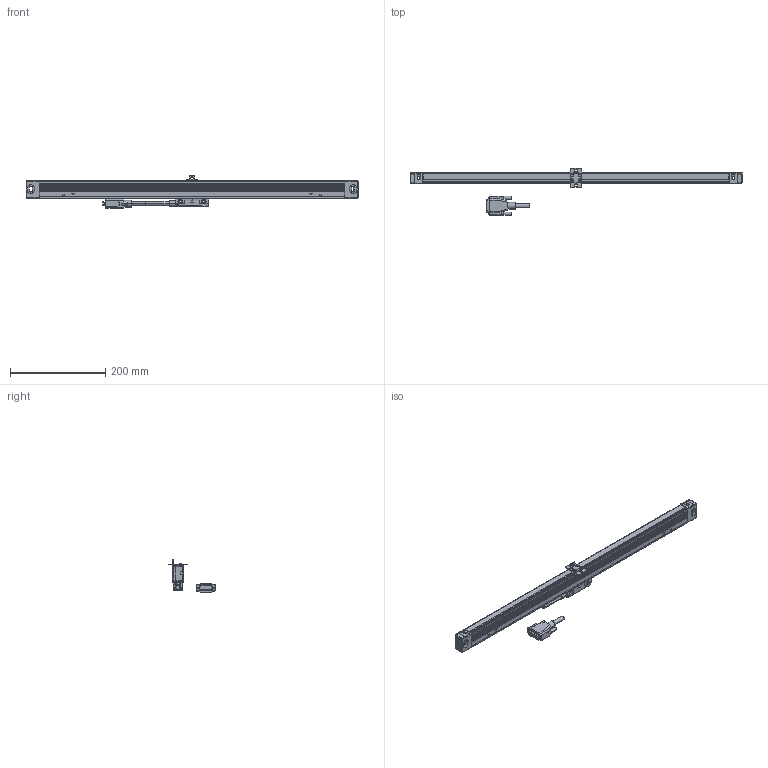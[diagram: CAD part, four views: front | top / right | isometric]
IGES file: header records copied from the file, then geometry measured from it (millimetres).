
Start section: Elysium IGES Interface
Global section: file name: 88H\\Utsu119s\kiyo_cad\data\3D\AT715\HP掲載用_201710\ﾓﾃﾞﾙ修正後_IGES\AT715-500_営業送付.igs; native system: Creo Elements/Direct Modeling 18.1B  29-Sep-2012; preprocessor: Creo Element/Direct IGES_3D V2.2; author: Unknown; organization: Unknown; date: 20181220.144146; units: millimetre
Bounding box: 698 x 99 x 68.35 mm (x, y, z)
Volume: 1524493.8 mm3; surface area: 331261.9 mm2
Topology: 5 solids, 10 shells, 1395 faces, 3676 edges, 2333 vertices
Faces by surface type: bspline 1395
